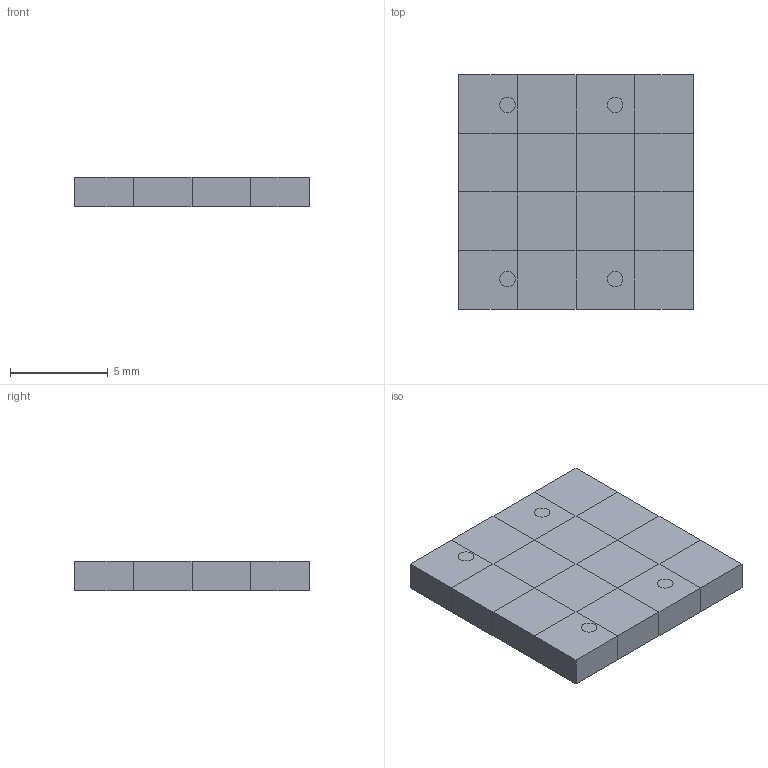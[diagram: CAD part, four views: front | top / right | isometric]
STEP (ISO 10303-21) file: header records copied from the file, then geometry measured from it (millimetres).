
FILE_DESCRIPTION(('Open CASCADE Model'),'2;1');
FILE_NAME('Open CASCADE Shape Model','2026-11-27T03:50:37',('Author'),( 'Open CASCADE'),'Open CASCADE STEP processor 7.9','Open CASCADE 7.9' ,'Unknown');
FILE_SCHEMA(('AUTOMOTIVE_DESIGN { 1 0 10303 214 1 1 1 1 }'));
Length unit declared in the file: millimetre
Products named in the file (3): manifold_S3; fluid; solid
Assembly tree (2 placements, depth 2):
  manifold_S3
    fluid
    solid
Bounding box: 12 x 12 x 1.5 mm (x, y, z)
Volume: 216 mm3; surface area: 1096.9 mm2
Topology: 3 solids, 3 shells, 852 faces, 2496 edges, 1578 vertices
Faces by surface type: plane 844, cylinder 8
Full cylindrical faces by diameter (mm): 0.8 x8
Entity records: 60647 total; most frequent: CARTESIAN_POINT 12161, DIRECTION 8694, LINE 6384, VECTOR 6384, ORIENTED_EDGE 4992, PCURVE 4992, DEFINITIONAL_REPRESENTATION 4992, EDGE_CURVE 2496
